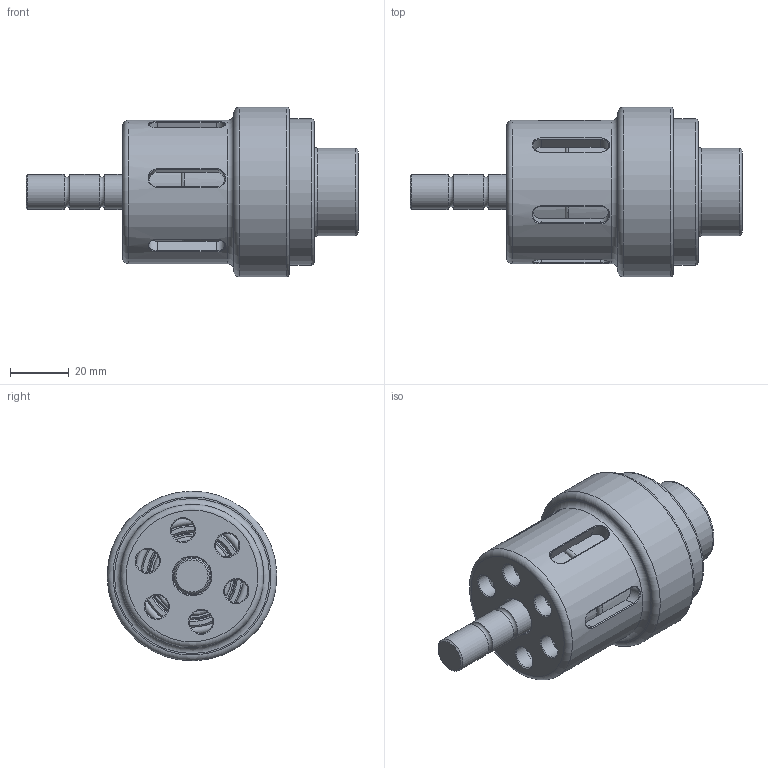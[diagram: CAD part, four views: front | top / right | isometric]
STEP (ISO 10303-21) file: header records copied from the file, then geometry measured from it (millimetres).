
FILE_DESCRIPTION(/* description */ (''),/* implementation_level */ '2;1');
FILE_NAME(/* name */ 'IKM-1044880 - MINI COMPENSATOR 30ML - 6231-010_SOLID.stp',/* time_stamp */ '2025-08-20T12:09:09+02:00',/* author */ ('KateB'),/* organization */ (''),/* preprocessor_version */ 'ST-DEVELOPER v19.2',/* originating_system */ 'Autodesk Inventor 2023',/* authorisation */ '');
FILE_SCHEMA (('CONFIG_CONTROL_DESIGN'));
Length unit declared in the file: millimetre
Products named in the file (1): IKM-1044880 - MINI COMPENSATOR 30ML - 6231-010_SOLID
Bounding box: 113.5 x 57.99 x 57.99 mm (x, y, z)
Volume: 86041.3 mm3; surface area: 44222.1 mm2
Topology: 1 solids, 2 shells, 147 faces, 391 edges, 236 vertices
Faces by surface type: plane 54, cylinder 46, torus 20, cone 14, bspline 13
Full cylindrical faces by diameter (mm): 8 x6, 12 x3, 13 x1, 18.631 x1, 21 x1, 29.5 x1, 30 x2, 35 x1, 36 x1, 39 x1, 40 x2, 46 x1, 48 x1, 49 x1, 50 x1, 51 x1, 53.3 x1, 54 x1, 58 x1
Entity records: 7898 total; most frequent: CARTESIAN_POINT 4005, DIRECTION 824, ORIENTED_EDGE 782, EDGE_CURVE 391, AXIS2_PLACEMENT_3D 342, VERTEX_POINT 236, CIRCLE 207, EDGE_LOOP 173
